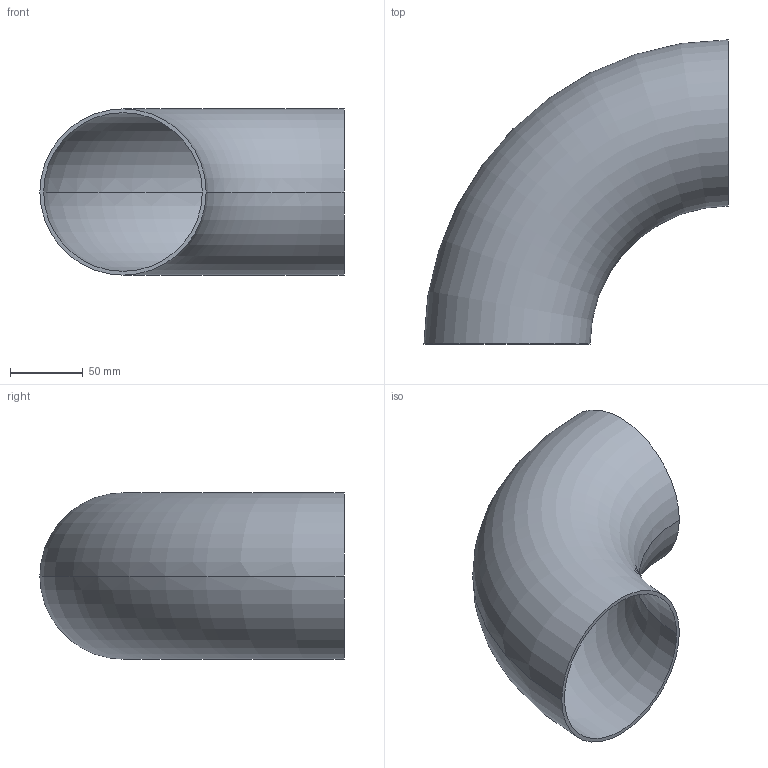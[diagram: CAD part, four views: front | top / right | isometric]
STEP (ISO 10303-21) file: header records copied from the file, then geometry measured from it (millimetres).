
FILE_DESCRIPTION (( 'STEP AP203' ), '1' );
FILE_NAME ('OT200-100-114_3x2_6_OSTP.step', '2020-12-16T02:44:29', ( '' ), ( '' ), 'SwSTEP 2.0', 'SolidWorks 2014', '' );
FILE_SCHEMA (( 'CONFIG_CONTROL_DESIGN' ));
Length unit declared in the file: millimetre
Products named in the file (1): OT200-100-114_3x2_6_OSTP
Bounding box: 209.15 x 209.15 x 114.3 mm (x, y, z)
Volume: 217841.1 mm3; surface area: 169394.9 mm2
Topology: 1 solids, 1 shells, 6 faces, 12 edges, 8 vertices
Faces by surface type: torus 4, plane 2
Entity records: 249 total; most frequent: DIRECTION 38, CARTESIAN_POINT 27, ORIENTED_EDGE 24, AXIS2_PLACEMENT_3D 19, EDGE_CURVE 12, CIRCLE 12, EDGE_LOOP 8, PERSON_AND_ORGANIZATION 8
